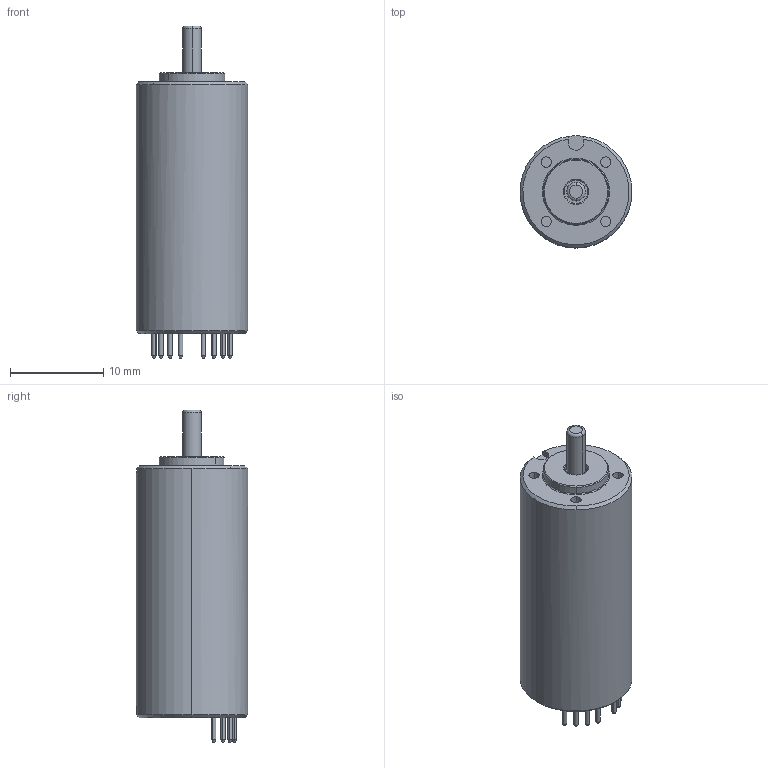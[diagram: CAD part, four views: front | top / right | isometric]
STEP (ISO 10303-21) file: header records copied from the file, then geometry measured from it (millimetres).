
FILE_DESCRIPTION (( 'STEP AP214' ), '1' );
FILE_NAME ('TB12Y24------.STEP', '2026-09-09T06:41:32', ( '' ), ( '' ), 'SwSTEP 2.0', 'SolidWorks 2026', '' );
FILE_SCHEMA (( 'AUTOMOTIVE_DESIGN' ));
Length unit declared in the file: millimetre
Products named in the file (1): TB12Y24------
Bounding box: 12 x 11.99 x 35.6 mm (x, y, z)
Volume: 3059.5 mm3; surface area: 1400.6 mm2
Topology: 1 solids, 9 shells, 198 faces, 442 edges, 283 vertices
Faces by surface type: cylinder 70, plane 61, cone 59, torus 8
Entity records: 5649 total; most frequent: CARTESIAN_POINT 1128, DIRECTION 1005, ORIENTED_EDGE 884, EDGE_CURVE 442, AXIS2_PLACEMENT_3D 417, VERTEX_POINT 283, EDGE_LOOP 219, CIRCLE 218
